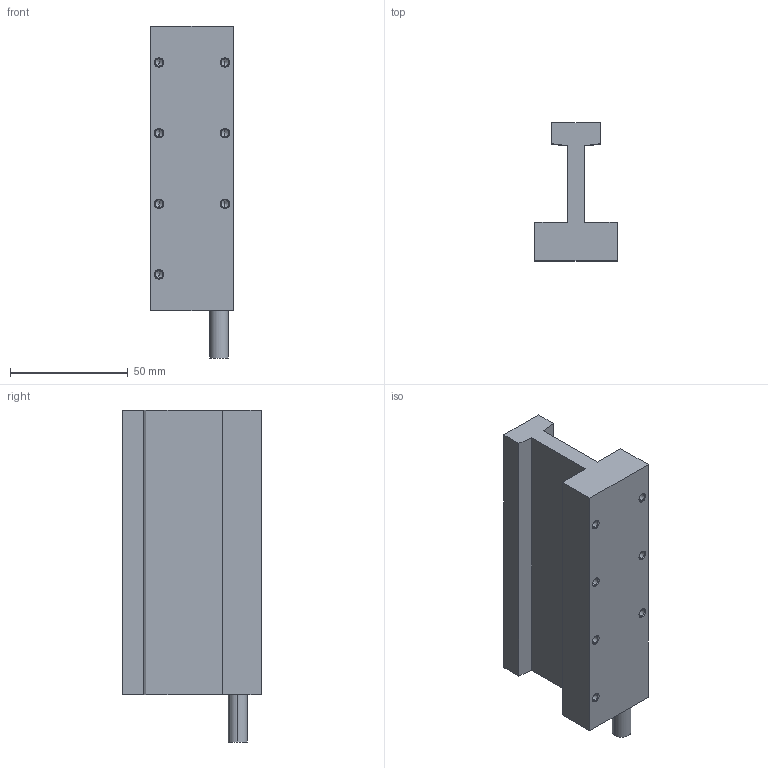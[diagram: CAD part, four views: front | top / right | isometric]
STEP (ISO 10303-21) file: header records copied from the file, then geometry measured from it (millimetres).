
FILE_DESCRIPTION (( 'STEP AP214' ), '1' );
FILE_NAME ('JKA32.STEP', '2025-09-05T12:43:28', ( '' ), ( '' ), 'SwSTEP 2.0', 'SolidWorks 2016', '' );
FILE_SCHEMA (( 'AUTOMOTIVE_DESIGN' ));
Length unit declared in the file: millimetre
Products named in the file (1): JKA32
Bounding box: 35 x 58.8 x 141 mm (x, y, z)
Volume: 122061.4 mm3; surface area: 29214.7 mm2
Topology: 1 solids, 1 shells, 59 faces, 140 edges, 77 vertices
Faces by surface type: cone 28, cylinder 16, plane 15
Entity records: 1766 total; most frequent: DIRECTION 292, CARTESIAN_POINT 263, ORIENTED_EDGE 252, EDGE_CURVE 126, AXIS2_PLACEMENT_3D 106, LINE 80, VECTOR 80, VERTEX_POINT 77
